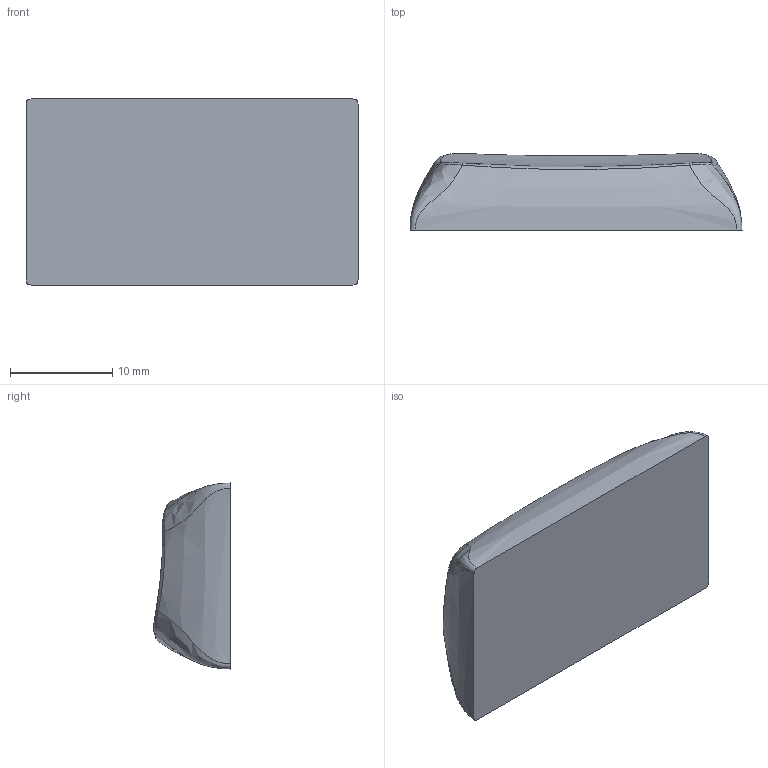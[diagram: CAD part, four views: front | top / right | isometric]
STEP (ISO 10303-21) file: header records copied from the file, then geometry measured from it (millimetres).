
FILE_DESCRIPTION (( 'STEP AP203' ), '1' );
FILE_NAME ('R3_1,75U_base_v3.2_GMK.STEP', '2023-03-07T08:56:50', ( '' ), ( '' ), 'SwSTEP 2.0', 'SolidWorks 2022', '' );
FILE_SCHEMA (( 'CONFIG_CONTROL_DESIGN' ));
Length unit declared in the file: millimetre
Products named in the file (1): R3_1,75U_base_v3.2_GMK
Bounding box: 32.48 x 7.52 x 18.2 mm (x, y, z)
Volume: 3330.5 mm3; surface area: 1619.3 mm2
Topology: 1 solids, 1 shells, 18 faces, 40 edges, 24 vertices
Faces by surface type: bspline 17, plane 1
Entity records: 2847 total; most frequent: CARTESIAN_POINT 2515, ORIENTED_EDGE 80, EDGE_CURVE 40, B_SPLINE_CURVE_WITH_KNOTS 37, VERTEX_POINT 24, FACE_OUTER_BOUND 18, ADVANCED_FACE 18, EDGE_LOOP 18
